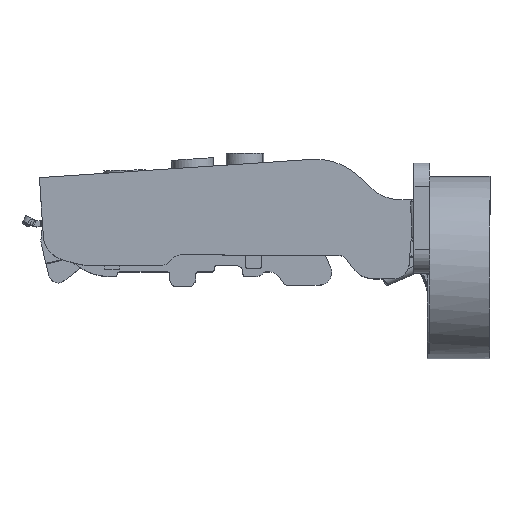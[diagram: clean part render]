
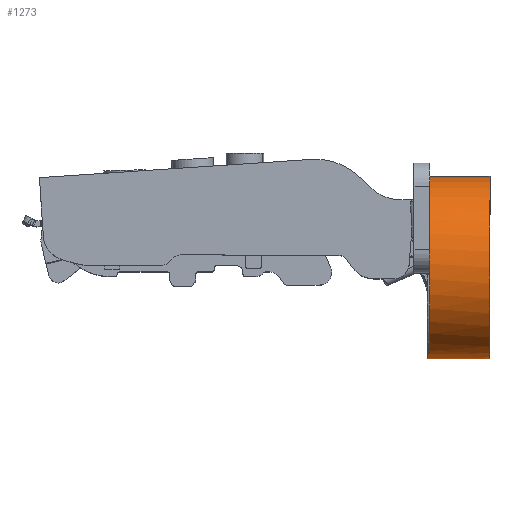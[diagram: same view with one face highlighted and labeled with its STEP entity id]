
A CAD part, top view. The second image highlights one B-rep face of the part: STEP entity #1273.
In plain terms, the highlighted cylindrical face has radius 17.4 mm (diameter 34.8 mm), a partial arc.
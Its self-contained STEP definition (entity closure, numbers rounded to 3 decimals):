
#1 = AXIS2_PLACEMENT_3D ( 'NONE', #4387, #6193, #8116 ) ;
#105 = VECTOR ( 'NONE', #550, 1000. ) ;
#131 = EDGE_CURVE ( 'NONE', #9151, #11542, #2356, .T. ) ;
#202 = ORIENTED_EDGE ( 'NONE', *, *, #4224, .F. ) ;
#471 = CIRCLE ( 'NONE', #8237, 17.4 ) ;
#550 = DIRECTION ( 'NONE',  ( 1., 0., 0. ) ) ;
#888 = CARTESIAN_POINT ( 'NONE',  ( 38.119, -10.386, 7.1 ) ) ;
#902 = ORIENTED_EDGE ( 'NONE', *, *, #12352, .F. ) ;
#1273 = ADVANCED_FACE ( 'NONE', ( #3320 ), #5227, .T. ) ;
#1329 = ORIENTED_EDGE ( 'NONE', *, *, #3525, .F. ) ;
#1351 = DIRECTION ( 'NONE',  ( 1., 0., 0. ) ) ;
#1585 = CARTESIAN_POINT ( 'NONE',  ( -11.215, -11.9, 0. ) ) ;
#1711 = CARTESIAN_POINT ( 'NONE',  ( 38.5, -10.386, 7.1 ) ) ;
#2356 = LINE ( 'NONE', #10985, #6908 ) ;
#2468 = ORIENTED_EDGE ( 'NONE', *, *, #2591, .F. ) ;
#2577 = CARTESIAN_POINT ( 'NONE',  ( 38.105, -10.325, 7.235 ) ) ;
#2591 = EDGE_CURVE ( 'NONE', #9151, #7766, #8424, .T. ) ;
#2652 = CARTESIAN_POINT ( 'NONE',  ( 38.065, -10.201, 7.5 ) ) ;
#3320 = FACE_OUTER_BOUND ( 'NONE', #5531, .T. ) ;
#3525 = EDGE_CURVE ( 'NONE', #11709, #11542, #5998, .T. ) ;
#3749 = CARTESIAN_POINT ( 'NONE',  ( 38., -9.891, 8.117 ) ) ;
#3977 = DIRECTION ( 'NONE',  ( 1., 0., 0. ) ) ;
#4037 = VERTEX_POINT ( 'NONE', #6834 ) ;
#4224 = EDGE_CURVE ( 'NONE', #7766, #12590, #9439, .T. ) ;
#4301 = EDGE_CURVE ( 'NONE', #4037, #9855, #8419, .T. ) ;
#4387 = CARTESIAN_POINT ( 'NONE',  ( -11.215, 5.5, 0. ) ) ;
#4704 = CARTESIAN_POINT ( 'NONE',  ( 38.026, -10.102, 7.707 ) ) ;
#4725 = ORIENTED_EDGE ( 'NONE', *, *, #10716, .F. ) ;
#4996 = CARTESIAN_POINT ( 'NONE',  ( 38.5, 22.9, 0. ) ) ;
#5099 = VERTEX_POINT ( 'NONE', #9718 ) ;
#5227 = CYLINDRICAL_SURFACE ( 'NONE', #1, 17.4 ) ;
#5469 = DIRECTION ( 'NONE',  ( 1., 0., 0. ) ) ;
#5531 = EDGE_LOOP ( 'NONE', ( #4725, #6200, #902, #202, #2468, #12050, #1329, #10949, #8719 ) ) ;
#5584 = DIRECTION ( 'NONE',  ( -1., 0., 0. ) ) ;
#5767 = AXIS2_PLACEMENT_3D ( 'NONE', #5914, #11861, #11803 ) ;
#5914 = CARTESIAN_POINT ( 'NONE',  ( 38.5, 5.5, 0. ) ) ;
#5998 = B_SPLINE_CURVE_WITH_KNOTS ( 'NONE', 3,
 ( #11333, #7359, #2577, #10316 ),
 .UNSPECIFIED., .F., .F.,
 ( 4, 4 ),
 ( 0.001, 0.001 ),
 .UNSPECIFIED. ) ;
#6115 = CARTESIAN_POINT ( 'NONE',  ( 38.053, -10.201, 7.5 ) ) ;
#6193 = DIRECTION ( 'NONE',  ( 1., 0., 0. ) ) ;
#6200 = ORIENTED_EDGE ( 'NONE', *, *, #4301, .T. ) ;
#6272 = CIRCLE ( 'NONE', #7093, 17.4 ) ;
#6311 = CARTESIAN_POINT ( 'NONE',  ( -11.215, 22.9, 0. ) ) ;
#6400 = B_SPLINE_CURVE_WITH_KNOTS ( 'NONE', 3,
 ( #3749, #12513, #4704, #8683 ),
 .UNSPECIFIED., .F., .F.,
 ( 4, 4 ),
 ( 0., 0.001 ),
 .UNSPECIFIED. ) ;
#6526 = CARTESIAN_POINT ( 'NONE',  ( 50., 22.9, 0. ) ) ;
#6834 = CARTESIAN_POINT ( 'NONE',  ( 38., -11.9, 0. ) ) ;
#6908 = VECTOR ( 'NONE', #9181, 1000. ) ;
#6920 = DIRECTION ( 'NONE',  ( 0., 1., 0. ) ) ;
#7093 = AXIS2_PLACEMENT_3D ( 'NONE', #7161, #3977, #6920 ) ;
#7161 = CARTESIAN_POINT ( 'NONE',  ( 50., 5.5, 0. ) ) ;
#7357 = EDGE_CURVE ( 'NONE', #5099, #8704, #6400, .T. ) ;
#7359 = CARTESIAN_POINT ( 'NONE',  ( 38.085, -10.264, 7.368 ) ) ;
#7491 = VECTOR ( 'NONE', #1351, 1000. ) ;
#7766 = VERTEX_POINT ( 'NONE', #4996 ) ;
#8116 = DIRECTION ( 'NONE',  ( 0., 1., 0. ) ) ;
#8224 = DIRECTION ( 'NONE',  ( 0., 1., 0. ) ) ;
#8237 = AXIS2_PLACEMENT_3D ( 'NONE', #9307, #5584, #8224 ) ;
#8419 = LINE ( 'NONE', #1585, #105 ) ;
#8424 = CIRCLE ( 'NONE', #5767, 17.4 ) ;
#8683 = CARTESIAN_POINT ( 'NONE',  ( 38.053, -10.201, 7.5 ) ) ;
#8704 = VERTEX_POINT ( 'NONE', #6115 ) ;
#8719 = ORIENTED_EDGE ( 'NONE', *, *, #7357, .F. ) ;
#9072 = VECTOR ( 'NONE', #5469, 1000. ) ;
#9151 = VERTEX_POINT ( 'NONE', #1711 ) ;
#9181 = DIRECTION ( 'NONE',  ( -1., 0., 0. ) ) ;
#9307 = CARTESIAN_POINT ( 'NONE',  ( 38., 5.5, 0. ) ) ;
#9439 = LINE ( 'NONE', #6311, #9072 ) ;
#9718 = CARTESIAN_POINT ( 'NONE',  ( 38., -9.891, 8.117 ) ) ;
#9855 = VERTEX_POINT ( 'NONE', #10905 ) ;
#10316 = CARTESIAN_POINT ( 'NONE',  ( 38.119, -10.386, 7.1 ) ) ;
#10716 = EDGE_CURVE ( 'NONE', #4037, #5099, #471, .T. ) ;
#10905 = CARTESIAN_POINT ( 'NONE',  ( 50., -11.9, 0. ) ) ;
#10949 = ORIENTED_EDGE ( 'NONE', *, *, #12442, .F. ) ;
#10985 = CARTESIAN_POINT ( 'NONE',  ( -11.215, -10.386, 7.1 ) ) ;
#11143 = CARTESIAN_POINT ( 'NONE',  ( 28.5, -10.201, 7.5 ) ) ;
#11333 = CARTESIAN_POINT ( 'NONE',  ( 38.065, -10.201, 7.5 ) ) ;
#11542 = VERTEX_POINT ( 'NONE', #888 ) ;
#11709 = VERTEX_POINT ( 'NONE', #2652 ) ;
#11803 = DIRECTION ( 'NONE',  ( 0., -1., 0. ) ) ;
#11861 = DIRECTION ( 'NONE',  ( -1., 0., 0. ) ) ;
#12050 = ORIENTED_EDGE ( 'NONE', *, *, #131, .T. ) ;
#12086 = LINE ( 'NONE', #11143, #7491 ) ;
#12352 = EDGE_CURVE ( 'NONE', #12590, #9855, #6272, .T. ) ;
#12442 = EDGE_CURVE ( 'NONE', #8704, #11709, #12086, .T. ) ;
#12513 = CARTESIAN_POINT ( 'NONE',  ( 38., -9.999, 7.912 ) ) ;
#12590 = VERTEX_POINT ( 'NONE', #6526 ) ;
